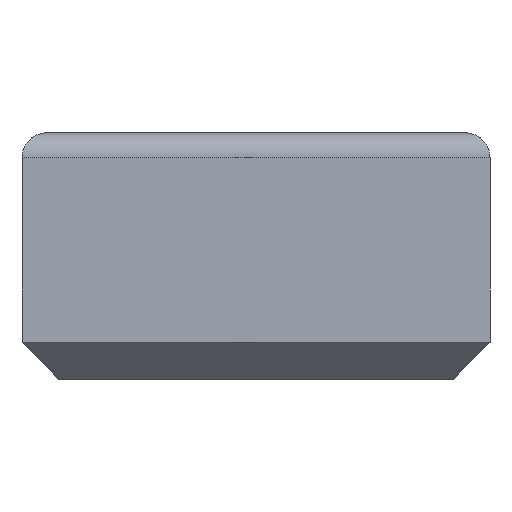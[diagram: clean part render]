
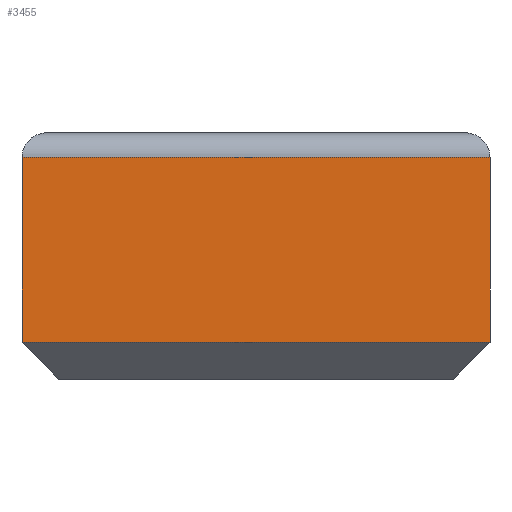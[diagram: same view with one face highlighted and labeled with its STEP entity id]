
A CAD part, front view. The second image highlights one B-rep face of the part: STEP entity #3455.
In plain terms, the highlighted planar face has unit normal (0, -1, 0).
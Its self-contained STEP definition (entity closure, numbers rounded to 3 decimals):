
#80 = ORIENTED_EDGE ( 'NONE', *, *, #1278, .T. ) ;
#208 = LINE ( 'NONE', #3438, #3031 ) ;
#294 = LINE ( 'NONE', #2401, #1597 ) ;
#309 = AXIS2_PLACEMENT_3D ( 'NONE', #670, #2592, #952 ) ;
#453 = LINE ( 'NONE', #1665, #2460 ) ;
#497 = VECTOR ( 'NONE', #901, 1000. ) ;
#670 = CARTESIAN_POINT ( 'NONE',  ( 0., 0., 0. ) ) ;
#901 = DIRECTION ( 'NONE',  ( 1., 0., 0. ) ) ;
#952 = DIRECTION ( 'NONE',  ( 0., 0., -1. ) ) ;
#975 = CARTESIAN_POINT ( 'NONE',  ( 0., 0., 18. ) ) ;
#1226 = EDGE_LOOP ( 'NONE', ( #1451, #2160, #2905, #80 ) ) ;
#1238 = PLANE ( 'NONE',  #309 ) ;
#1265 = DIRECTION ( 'NONE',  ( 0., 0., 1. ) ) ;
#1278 = EDGE_CURVE ( 'NONE', #3531, #2062, #294, .T. ) ;
#1417 = CARTESIAN_POINT ( 'NONE',  ( 38., 0., 3. ) ) ;
#1436 = VERTEX_POINT ( 'NONE', #975 ) ;
#1451 = ORIENTED_EDGE ( 'NONE', *, *, #3212, .T. ) ;
#1597 = VECTOR ( 'NONE', #1890, 1000. ) ;
#1665 = CARTESIAN_POINT ( 'NONE',  ( 0., 0., 10.5 ) ) ;
#1826 = CARTESIAN_POINT ( 'NONE',  ( 38., 0., 18. ) ) ;
#1890 = DIRECTION ( 'NONE',  ( 1., 0., 0. ) ) ;
#2052 = EDGE_CURVE ( 'NONE', #3531, #1436, #453, .T. ) ;
#2062 = VERTEX_POINT ( 'NONE', #1417 ) ;
#2101 = DIRECTION ( 'NONE',  ( 0., 0., 1. ) ) ;
#2160 = ORIENTED_EDGE ( 'NONE', *, *, #2296, .F. ) ;
#2234 = VERTEX_POINT ( 'NONE', #1826 ) ;
#2296 = EDGE_CURVE ( 'NONE', #1436, #2234, #2707, .T. ) ;
#2401 = CARTESIAN_POINT ( 'NONE',  ( 19., 0., 3. ) ) ;
#2460 = VECTOR ( 'NONE', #2101, 1000. ) ;
#2592 = DIRECTION ( 'NONE',  ( 0., -1., 0. ) ) ;
#2653 = CARTESIAN_POINT ( 'NONE',  ( 0., 0., 3. ) ) ;
#2707 = LINE ( 'NONE', #2833, #497 ) ;
#2833 = CARTESIAN_POINT ( 'NONE',  ( 19., 0., 18. ) ) ;
#2905 = ORIENTED_EDGE ( 'NONE', *, *, #2052, .F. ) ;
#3031 = VECTOR ( 'NONE', #1265, 1000. ) ;
#3212 = EDGE_CURVE ( 'NONE', #2062, #2234, #208, .T. ) ;
#3374 = FACE_OUTER_BOUND ( 'NONE', #1226, .T. ) ;
#3438 = CARTESIAN_POINT ( 'NONE',  ( 38., 0., 10.5 ) ) ;
#3455 = ADVANCED_FACE ( 'NONE', ( #3374 ), #1238, .T. ) ;
#3531 = VERTEX_POINT ( 'NONE', #2653 ) ;
